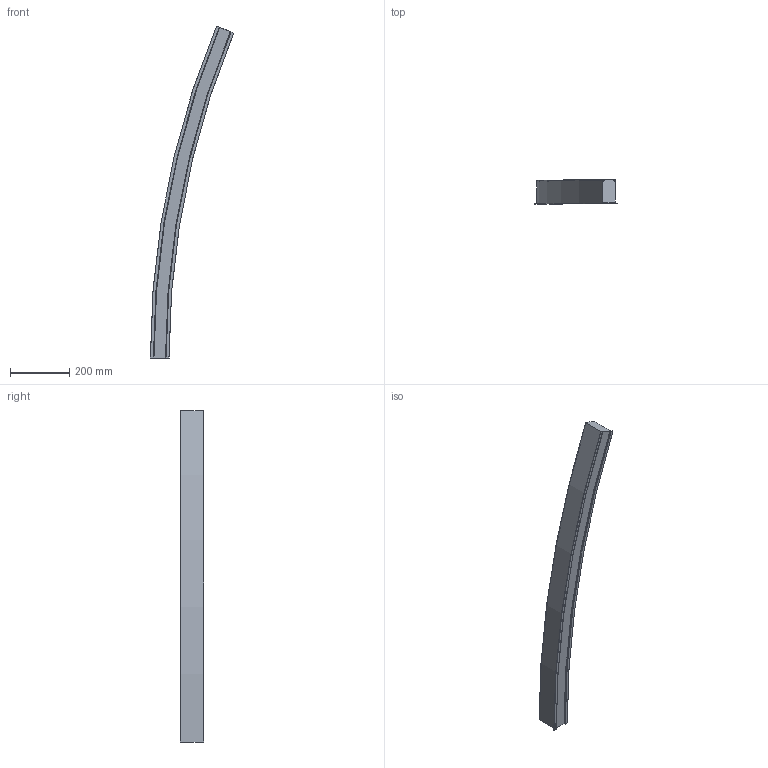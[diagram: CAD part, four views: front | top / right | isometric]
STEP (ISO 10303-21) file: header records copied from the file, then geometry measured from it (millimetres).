
FILE_DESCRIPTION (( 'STEP AP203' ), '1' );
FILE_NAME ('mLight_Swerve 47 Recessed_R2900 mm 22.5 deg.STEP', '2020-04-01T10:07:26', ( '' ), ( '' ), 'SwSTEP 2.0', 'SolidWorks 2017', '' );
FILE_SCHEMA (( 'CONFIG_CONTROL_DESIGN' ));
Length unit declared in the file: millimetre
Products named in the file (1): mLight_Swerve 47 Recessed_R2900 mm 22.5 deg
Bounding box: 281.35 x 80.63 x 1121.84 mm (x, y, z)
Volume: 4135075.6 mm3; surface area: 358032.9 mm2
Topology: 1 solids, 1 shells, 54 faces, 156 edges, 104 vertices
Faces by surface type: torus 28, plane 12, cylinder 8, cone 6
Entity records: 1925 total; most frequent: DIRECTION 374, CARTESIAN_POINT 315, ORIENTED_EDGE 312, AXIS2_PLACEMENT_3D 163, EDGE_CURVE 156, CIRCLE 108, VERTEX_POINT 104, EDGE_LOOP 54
